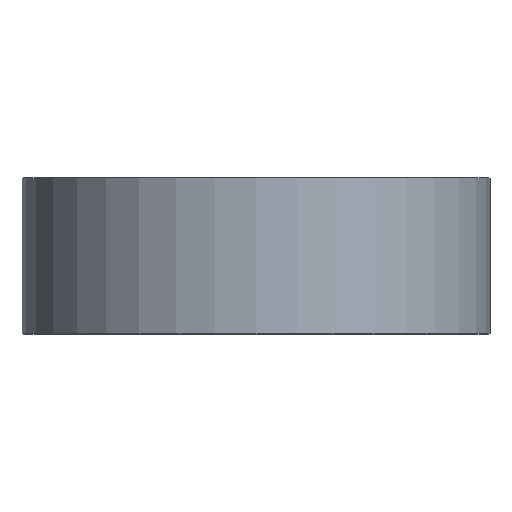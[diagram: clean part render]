
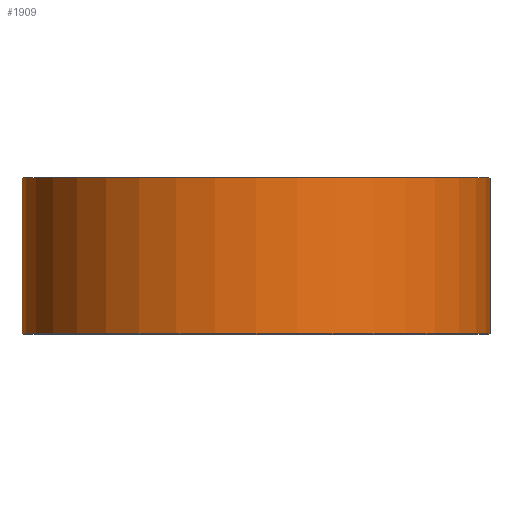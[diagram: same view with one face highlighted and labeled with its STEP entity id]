
A CAD part, top view. The second image highlights one B-rep face of the part: STEP entity #1909.
In plain terms, the highlighted cylindrical face has radius 38.1 mm (diameter 76.2 mm), a full revolution.
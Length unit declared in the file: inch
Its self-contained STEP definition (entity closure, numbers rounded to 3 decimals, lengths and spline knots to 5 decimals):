
#257=FACE_OUTER_BOUND('',#349,.T.);
#349=EDGE_LOOP('',(#1576,#1577,#1578,#1579));
#529=LINE('',#3236,#673);
#673=VECTOR('',#2696,1.5);
#790=CIRCLE('',#2139,1.5);
#791=CIRCLE('',#2140,1.5);
#966=VERTEX_POINT('',#3233);
#967=VERTEX_POINT('',#3235);
#1227=EDGE_CURVE('',#966,#966,#790,.T.);
#1228=EDGE_CURVE('',#966,#967,#529,.T.);
#1229=EDGE_CURVE('',#967,#967,#791,.T.);
#1576=ORIENTED_EDGE('',*,*,#1227,.F.);
#1577=ORIENTED_EDGE('',*,*,#1228,.T.);
#1578=ORIENTED_EDGE('',*,*,#1229,.T.);
#1579=ORIENTED_EDGE('',*,*,#1228,.F.);
#1821=CYLINDRICAL_SURFACE('',#2138,1.5);
#1909=ADVANCED_FACE('',(#257),#1821,.T.);
#2138=AXIS2_PLACEMENT_3D('',#3232,#2692,#2693);
#2139=AXIS2_PLACEMENT_3D('',#3234,#2694,#2695);
#2140=AXIS2_PLACEMENT_3D('',#3237,#2697,#2698);
#2692=DIRECTION('center_axis',(0.,1.,0.));
#2693=DIRECTION('ref_axis',(-1.,0.,0.));
#2694=DIRECTION('center_axis',(0.,1.,0.));
#2695=DIRECTION('ref_axis',(-1.,0.,0.));
#2696=DIRECTION('',(0.,-1.,0.));
#2697=DIRECTION('center_axis',(0.,1.,0.));
#2698=DIRECTION('ref_axis',(-1.,0.,0.));
#3232=CARTESIAN_POINT('Origin',(0.,0.,0.));
#3233=CARTESIAN_POINT('',(1.5,1.,0.));
#3234=CARTESIAN_POINT('Origin',(0.,1.,0.));
#3235=CARTESIAN_POINT('',(1.5,0.,0.));
#3236=CARTESIAN_POINT('',(1.5,0.,0.));
#3237=CARTESIAN_POINT('Origin',(0.,0.,0.));
